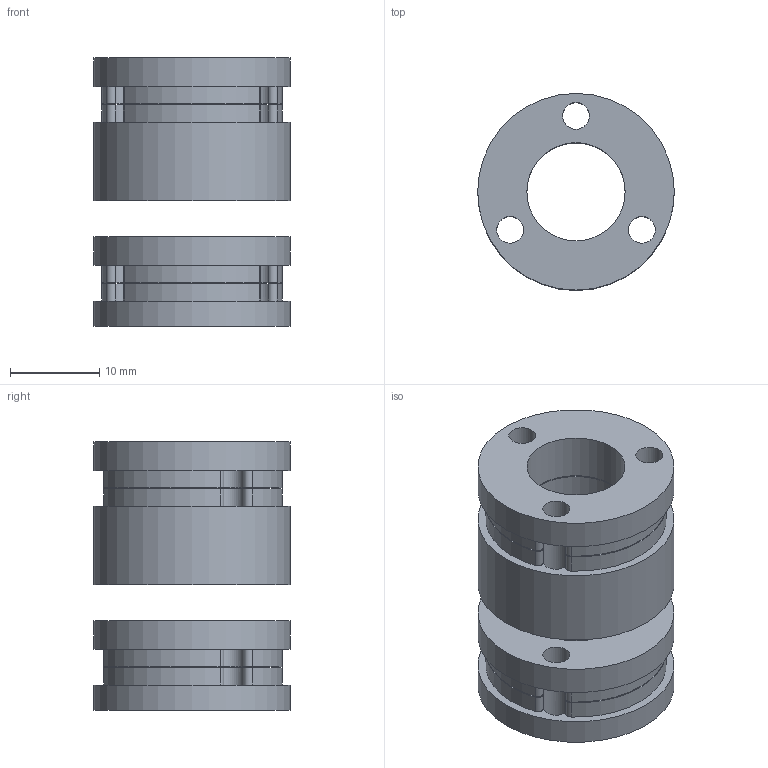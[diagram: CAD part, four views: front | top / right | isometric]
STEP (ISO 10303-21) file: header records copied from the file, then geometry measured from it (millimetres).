
FILE_DESCRIPTION(/* description */ ('CAx-IF Rec.Pracs.---Representation and Presentation of Product Manufacturing Information (PMI)---4.0---2014-10-13','CAx-IF Rec.Pracs.---3D Tessellated Geometry---0.4---2014-09-14','2;1'),/* implementation_level */ '2;1');
FILE_NAME(/* name */ 'qc1_p26',/* time_stamp */ '2026-07-26T01:04:29+03:00',/* author */ (''),/* organization */ (''),/* preprocessor_version */ 'ST-DEVELOPER v19.4',/* originating_system */ 'SIEMENS PLM Software NX2306.1700',/* authorisation */ $);
FILE_SCHEMA (('AP242_MANAGED_MODEL_BASED_3D_ENGINEERING_MIM_LF { 1 0 10303 442 3 1 4 }'));
Length unit declared in the file: millimetre
Products named in the file (1): qc1_p26
Bounding box: 22 x 22 x 30 mm (x, y, z)
Volume: 6314.9 mm3; surface area: 5352.5 mm2
Topology: 4 solids, 4 shells, 68 faces, 204 edges, 136 vertices
Faces by surface type: cylinder 56, plane 12
Full cylindrical faces by diameter (mm): 3.01 x12, 11 x4, 22 x4
Entity records: 2265 total; most frequent: DIRECTION 434, CARTESIAN_POINT 365, ORIENTED_EDGE 344, AXIS2_PLACEMENT_3D 193, EDGE_CURVE 172, CIRCLE 124, VERTEX_POINT 124, EDGE_LOOP 112
